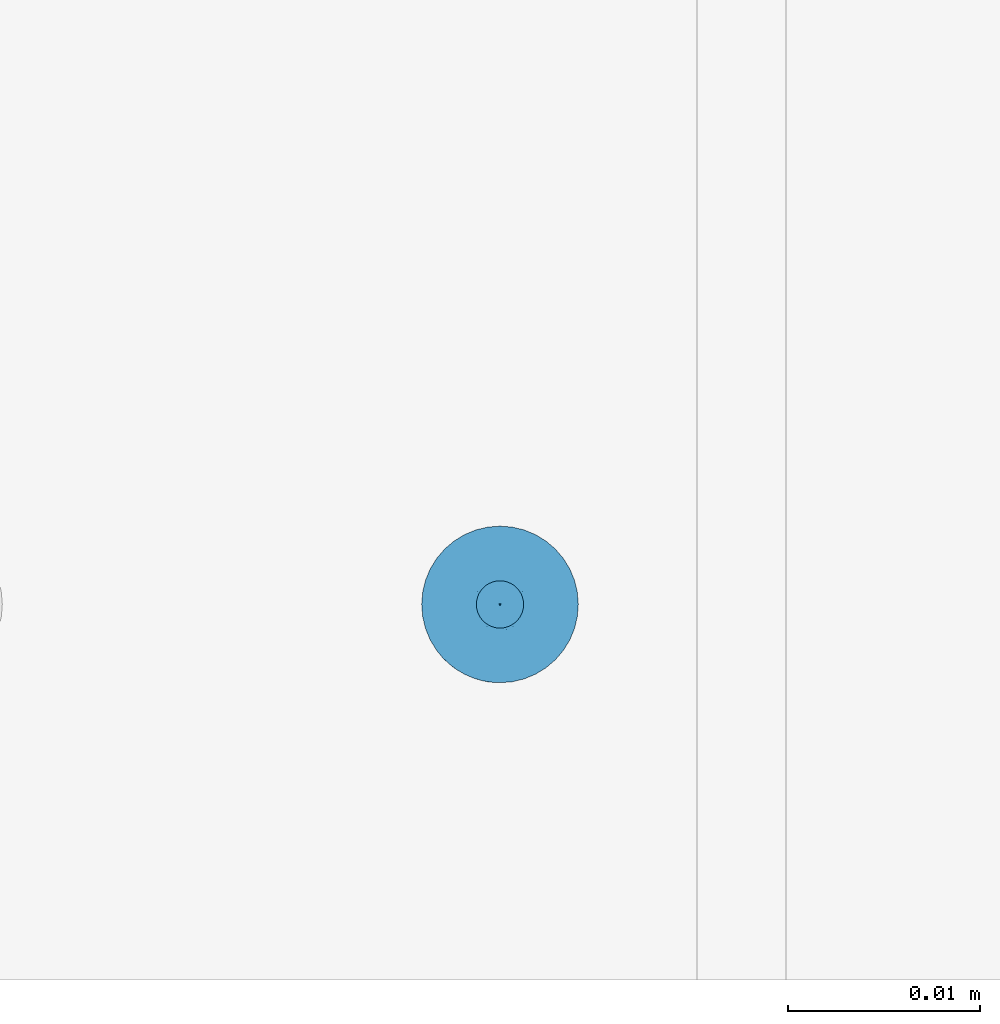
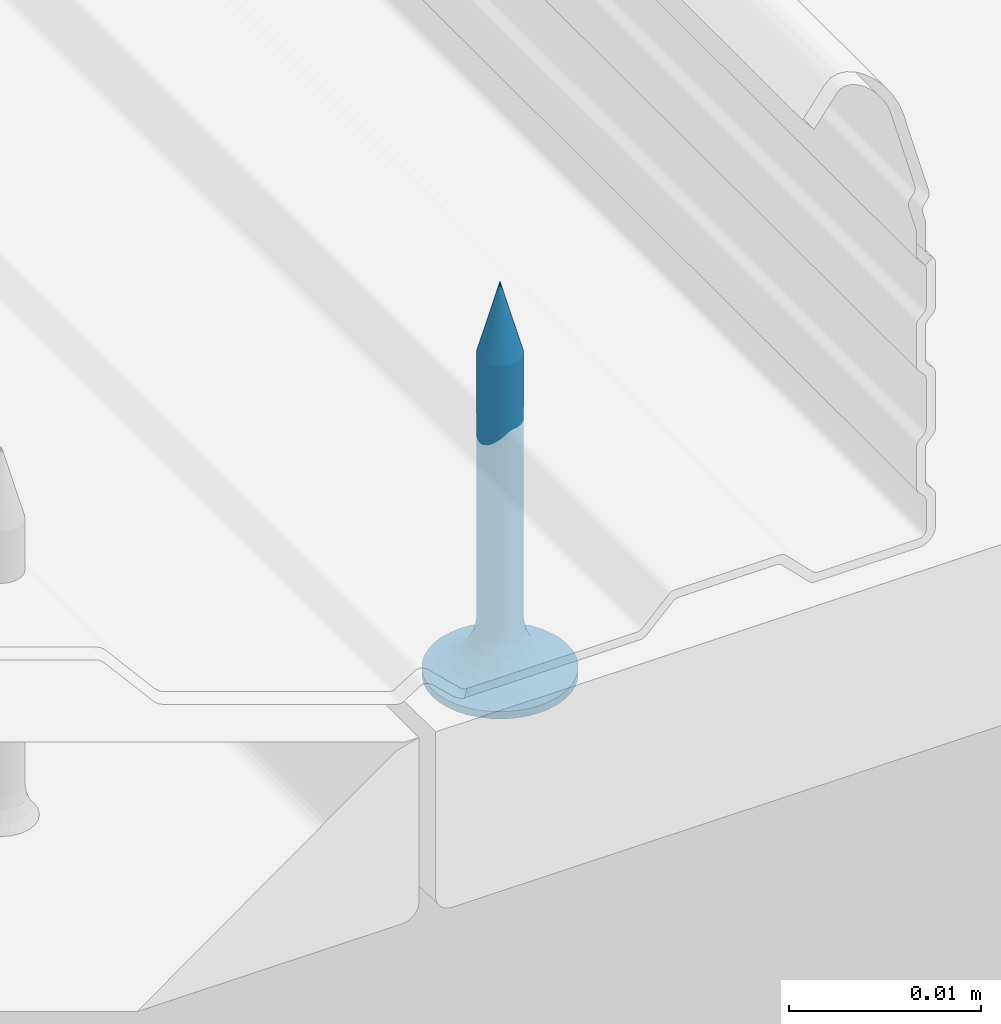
# One storey, part 16 of 62: 1 slab.
"""IFC2X3 building model written with IfcOpenShell, lengths in millimetres."""

from ifc_helpers import new_model, entity, si_unit, converted_unit, direction, frame, origin, origin_with_axes, place, context, project, spatial, faceted_brep, element, save


model = new_model("IFC2X3")

# Units and contexts
model_context = context("Model", 3, precision=1e-05, world=origin(), true_north=direction((0.0, 1.0, 0.0)))
ifc_project = project(units=[si_unit("LENGTHUNIT", "METRE", prefix="MILLI"), si_unit("AREAUNIT", "SQUARE_METRE"), si_unit("VOLUMEUNIT", "CUBIC_METRE"), converted_unit("PLANEANGLEUNIT", "DEGREE", entity("IfcPlaneAngleMeasure", 0.01745), si_unit("PLANEANGLEUNIT", "RADIAN"), dimensions=[0, 0, 0, 0, 0, 0, 0]), si_unit("SOLIDANGLEUNIT", "STERADIAN"), si_unit("MASSUNIT", "GRAM"), si_unit("TIMEUNIT", "SECOND"), si_unit("THERMODYNAMICTEMPERATUREUNIT", "DEGREE_CELSIUS"), si_unit("LUMINOUSINTENSITYUNIT", "LUMEN")], contexts=[model_context])

# Site, building, storey
site_placement = place(None, origin_with_axes())
site = spatial("IfcSite", under=ifc_project, at=site_placement, Name="Default Site", CompositionType="ELEMENT")
building_placement = place(site_placement, origin_with_axes())
building = spatial("IfcBuilding", under=site, at=building_placement, Name="Default Building", CompositionType="ELEMENT")
storey_placement = place(building_placement, origin_with_axes())
storey = spatial("IfcBuildingStorey", under=building, at=storey_placement, Name="Default Building Storey", CompositionType="ELEMENT", Elevation=0.0)

# Slab
slab_placement = place(storey_placement, frame((2515.605801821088, 733.9019927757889, 4687.393042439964), z_axis=(0.0, 1.0, 2.220446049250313e-16), x_axis=(1.0, -1.802054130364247e-31, 8.115730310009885e-16)))
element("IfcSlab", 1, at=slab_placement, inside=storey, Name="Wkręt RIGIPS TN 25", context=model_context, shape_type="Brep", body=[
    faceted_brep([(-141.5377463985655, 3390.556721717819, 555.8000000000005), (-141.5377463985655, 3391.020944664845, 555.8000000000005), (-141.4875329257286, 3391.020944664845, 555.1619773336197), (-141.4875329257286, 3390.556721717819, 555.1619773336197), (-141.338128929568, 3391.020944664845, 554.5396649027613), (-141.338128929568, 3390.556721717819, 554.5396649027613), (-141.0932132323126, 3391.020944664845, 553.9483861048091), (-141.0932132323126, 3390.556721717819, 553.9483861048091), (-140.7588164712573, 3391.020944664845, 553.4027001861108), (-140.7588164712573, 3390.556721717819, 553.4027001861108), (-140.3431726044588, 3391.020944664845, 552.9160437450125), (-140.4541727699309, 3390.556721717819, 553.0314907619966), (-140.1080097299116, 3390.556721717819, 552.6986614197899), (-139.8565161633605, 3391.020944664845, 552.500399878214), (-139.7251262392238, 3390.556721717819, 552.4088262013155), (-139.3108302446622, 3391.020944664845, 552.1660031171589), (-139.3108302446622, 3390.556721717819, 552.1660031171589), (-138.8708651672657, 3390.556721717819, 551.9735584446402), (-138.7195514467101, 3391.020944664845, 551.9210874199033), (-138.4113302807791, 3390.556721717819, 551.8341600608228), (-137.9385961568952, 3390.556721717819, 551.7497404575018), (-138.0972390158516, 3391.020944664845, 551.7716834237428), (-137.459216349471, 3391.020944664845, 551.7214699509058), (-137.459216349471, 3390.556721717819, 551.7214699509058), (-136.8211936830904, 3391.020944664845, 551.7716834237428), (-136.8211936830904, 3390.556721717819, 551.7716834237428), (-136.198881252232, 3391.020944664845, 551.9210874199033), (-136.198881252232, 3390.556721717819, 551.9210874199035), (-135.6076024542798, 3391.020944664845, 552.1660031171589), (-135.6076024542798, 3390.556721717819, 552.1660031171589), (-135.0619165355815, 3391.020944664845, 552.500399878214), (-135.0619165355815, 3390.556721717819, 552.500399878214), (-134.5752600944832, 3391.020944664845, 552.9160437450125), (-134.5752600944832, 3390.556721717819, 552.9160437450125), (-134.1596162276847, 3391.020944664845, 553.4027001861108), (-134.1596162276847, 3390.556721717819, 553.4027001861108), (-133.8252194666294, 3391.020944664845, 553.9483861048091), (-133.8252194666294, 3390.556721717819, 553.9483861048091), (-133.580303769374, 3391.020944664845, 554.5396649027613), (-133.580303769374, 3390.556721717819, 554.5396649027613), (-133.4308997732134, 3391.020944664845, 556.438022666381), (-133.4308997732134, 3390.556721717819, 556.438022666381), (-133.3806863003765, 3390.556721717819, 555.8000000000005), (-133.3806863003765, 3391.020944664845, 555.8000000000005), (-133.4308997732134, 3390.556721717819, 555.1619773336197), (-133.4308997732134, 3391.020944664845, 555.1619773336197), (-133.580303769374, 3391.020944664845, 557.0603350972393), (-133.580303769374, 3390.556721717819, 557.0603350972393), (-133.8252194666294, 3391.020944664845, 557.6516138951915), (-133.8252194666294, 3390.556721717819, 557.6516138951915), (-134.1596162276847, 3391.020944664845, 558.1972998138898), (-134.1596162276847, 3390.556721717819, 558.1972998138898), (-134.5752600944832, 3391.020944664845, 558.6839562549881), (-134.5752600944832, 3390.556721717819, 558.6839562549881), (-135.0619165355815, 3391.020944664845, 559.0996001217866), (-135.0619165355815, 3390.556721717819, 559.0996001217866), (-135.6076024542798, 3391.020944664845, 559.4339968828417), (-135.6076024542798, 3390.556721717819, 559.4339968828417), (-136.198881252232, 3391.020944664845, 559.6789125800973), (-136.198881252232, 3390.556721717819, 559.6789125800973), (-136.8211936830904, 3391.020944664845, 559.8283165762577), (-136.8211936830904, 3390.556721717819, 559.8283165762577), (-137.459216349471, 3391.020944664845, 559.8785300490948), (-137.459216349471, 3390.556721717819, 559.8785300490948), (-138.0972390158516, 3391.020944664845, 559.8283165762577), (-138.0972390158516, 3390.556721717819, 559.8283165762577), (-138.7195514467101, 3391.020944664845, 559.6789125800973), (-138.7195514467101, 3390.556721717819, 559.6789125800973), (-139.3108302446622, 3391.020944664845, 559.4339968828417), (-139.3108302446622, 3390.556721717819, 559.4339968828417), (-139.8565161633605, 3391.020944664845, 559.0996001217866), (-139.8565161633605, 3390.556721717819, 559.0996001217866), (-140.3431726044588, 3391.020944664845, 558.6839562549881), (-140.3431726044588, 3390.556721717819, 558.6839562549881), (-140.7588164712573, 3391.020944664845, 558.1972998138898), (-140.7588164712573, 3390.556721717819, 558.1972998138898), (-141.0932132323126, 3391.020944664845, 557.6516138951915), (-141.0932132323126, 3390.556721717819, 557.6516138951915), (-141.338128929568, 3391.020944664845, 557.0603350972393), (-141.338128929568, 3390.556721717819, 557.0603350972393), (-141.4875329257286, 3391.020944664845, 556.438022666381), (-141.4875329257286, 3390.556721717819, 556.438022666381), (-137.8060615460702, 3388.229732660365, 554.5055560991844), (-137.459216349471, 3387.475459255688, 554.5693795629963), (-137.6517277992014, 3387.475459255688, 554.5845305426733), (-137.459216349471, 3388.229732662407, 554.4598930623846), (-137.8394989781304, 3387.475459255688, 554.6296104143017), (-138.1292698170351, 3388.229732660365, 554.6394333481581), (-138.0179063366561, 3387.475459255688, 554.7035091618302), (-138.1825568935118, 3387.475459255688, 554.8044071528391), (-138.4068150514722, 3388.229732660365, 554.8524012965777), (-138.3293964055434, 3387.475459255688, 554.9298199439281), (-138.6197830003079, 3388.229732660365, 555.1299465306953), (-138.4548091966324, 3387.475459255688, 555.0766594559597), (-138.5557071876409, 3387.475459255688, 555.2413100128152), (-138.7536602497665, 3388.229732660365, 555.4531548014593), (-138.6296059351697, 3387.475459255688, 555.4197173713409), (-138.6746858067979, 3387.475459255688, 555.6074885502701), (-138.7993232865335, 3388.229732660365, 555.7999999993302), (-138.6898367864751, 3387.475459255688, 555.8000000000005), (-138.7536602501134, 3388.229732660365, 556.1468451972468), (-138.6746858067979, 3387.475459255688, 555.9925114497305), (-138.6296059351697, 3387.475459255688, 556.1802826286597), (-138.6197830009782, 3388.229732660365, 556.4700534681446), (-138.5557071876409, 3387.475459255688, 556.3586899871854), (-138.4548091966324, 3387.475459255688, 556.5233405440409), (-138.4068150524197, 3388.229732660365, 556.7475987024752), (-138.3293964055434, 3387.475459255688, 556.6701800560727), (-138.1292698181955, 3388.229732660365, 556.9605666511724), (-138.1825568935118, 3387.475459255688, 556.7955928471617), (-138.0179063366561, 3387.475459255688, 556.8964908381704), (-137.8060615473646, 3388.229732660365, 557.0944439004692), (-137.8394989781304, 3387.475459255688, 556.9703895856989), (-137.6517277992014, 3387.475459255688, 557.0154694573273), (-137.459216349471, 3388.229732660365, 557.1401069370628), (-137.459216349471, 3387.475459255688, 557.0306204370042), (-137.1123711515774, 3388.229732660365, 557.0944439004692), (-137.2667048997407, 3387.475459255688, 557.0154694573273), (-137.0789337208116, 3387.475459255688, 556.9703895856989), (-136.7891628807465, 3388.229732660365, 556.9605666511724), (-136.9005263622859, 3387.475459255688, 556.8964908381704), (-136.7358758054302, 3387.475459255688, 556.7955928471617), (-136.5116176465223, 3388.229732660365, 556.7475987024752), (-136.5890362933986, 3387.475459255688, 556.6701800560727), (-136.2986496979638, 3388.229732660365, 556.4700534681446), (-136.4636235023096, 3387.475459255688, 556.5233405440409), (-136.3627255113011, 3387.475459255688, 556.3586899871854), (-136.1647724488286, 3388.229732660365, 556.1468451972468), (-136.2888267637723, 3387.475459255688, 556.1802826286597), (-136.2437468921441, 3387.475459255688, 555.9925114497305), (-136.1191094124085, 3388.229732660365, 555.7999999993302), (-136.2285959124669, 3387.475459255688, 555.8000000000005), (-136.1647724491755, 3388.229732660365, 555.4531548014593), (-136.2437468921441, 3387.475459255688, 555.6074885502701), (-136.2888267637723, 3387.475459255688, 555.4197173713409), (-136.2986496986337, 3388.229732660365, 555.1299465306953), (-136.3627255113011, 3387.475459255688, 555.2413100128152), (-136.4636235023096, 3387.475459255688, 555.0766594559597), (-136.5116176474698, 3388.229732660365, 554.8524012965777), (-136.5890362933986, 3387.475459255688, 554.9298199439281), (-136.7891628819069, 3388.229732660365, 554.6394333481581), (-136.7358758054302, 3387.475459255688, 554.8044071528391), (-136.9005263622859, 3387.475459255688, 554.7035091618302), (-137.1123711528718, 3388.229732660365, 554.5055560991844), (-137.0789337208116, 3387.475459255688, 554.6296104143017), (-137.2667048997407, 3387.475459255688, 554.5845305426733), (-137.459216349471, 3388.936142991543, 554.1737111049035), (-137.8801308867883, 3388.936142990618, 554.2291255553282), (-138.2723607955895, 3388.936142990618, 554.39159250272), (-138.6091762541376, 3388.936142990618, 554.6500400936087), (-138.8676238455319, 3388.936142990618, 554.9868555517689), (-139.030090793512, 3388.936142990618, 555.3790854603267), (-139.0855052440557, 3388.936142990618, 555.7999999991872), (-139.0300907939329, 3388.936142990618, 556.220914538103), (-138.8676238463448, 3388.936142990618, 556.6131444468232), (-138.6091762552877, 3388.936142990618, 556.949959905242), (-138.272360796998, 3388.936142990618, 557.2084074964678), (-137.8801308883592, 3388.936142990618, 557.3708744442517), (-137.459216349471, 3388.936142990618, 557.4262888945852), (-137.0383018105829, 3388.936142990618, 557.3708744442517), (-136.646071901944, 3388.936142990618, 557.2084074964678), (-136.3092564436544, 3388.936142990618, 556.949959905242), (-136.0508088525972, 3388.936142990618, 556.6131444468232), (-135.8883419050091, 3388.936142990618, 556.220914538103), (-135.8329274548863, 3388.936142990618, 555.7999999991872), (-135.88834190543, 3388.936142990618, 555.3790854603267), (-136.0508088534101, 3388.936142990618, 554.9868555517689), (-136.3092564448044, 3388.936142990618, 554.6500400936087), (-136.6460719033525, 3388.936142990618, 554.39159250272), (-137.0383018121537, 3388.936142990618, 554.2291255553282), (-137.459216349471, 3389.553938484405, 553.727343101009), (-137.995659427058, 3389.553938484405, 553.7979671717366), (-138.4955447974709, 3389.553938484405, 554.0050264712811), (-138.9248060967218, 3389.553938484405, 554.3344102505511), (-139.2541898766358, 3389.553938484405, 554.763671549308), (-139.46124917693, 3389.553938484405, 555.2635569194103), (-139.5318732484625, 3389.553938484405, 555.799999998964), (-139.4612491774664, 3389.553938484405, 556.3364430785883), (-139.2541898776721, 3389.553938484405, 556.8363284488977), (-138.9248060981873, 3389.553938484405, 557.2655897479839), (-138.495544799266, 3389.553938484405, 557.5949735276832), (-137.9956594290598, 3389.553938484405, 557.8020328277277), (-137.459216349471, 3389.553938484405, 557.8726568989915), (-136.9227732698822, 3389.553938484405, 557.8020328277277), (-136.422887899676, 3389.553938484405, 557.5949735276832), (-135.9936266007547, 3389.553938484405, 557.2655897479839), (-135.6642428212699, 3389.553938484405, 556.8363284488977), (-135.4571835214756, 3389.553938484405, 556.3364430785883), (-135.3865594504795, 3389.553938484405, 555.799999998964), (-135.457183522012, 3389.553938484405, 555.2635569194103), (-135.6642428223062, 3389.553938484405, 554.763671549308), (-135.9936266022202, 3389.553938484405, 554.3344102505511), (-136.4228879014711, 3389.553938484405, 554.0050264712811), (-136.922773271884, 3389.553938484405, 553.7979671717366), (-137.459216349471, 3390.04747944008, 553.1465393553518), (-138.1459824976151, 3390.047479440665, 553.2369538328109), (-138.7859466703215, 3390.047479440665, 553.5020356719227), (-139.3354963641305, 3390.047479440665, 553.9237199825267), (-139.7571806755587, 3390.047479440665, 554.4732696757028), (-140.0222625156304, 3390.047479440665, 555.1132338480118), (-140.1126769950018, 3390.047479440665, 555.7999999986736), (-140.0222625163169, 3390.047479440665, 556.4867661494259), (-139.7571806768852, 3390.047479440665, 557.1267303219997), (-139.3354963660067, 3390.047479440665, 557.6762800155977), (-138.7859466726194, 3390.047479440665, 558.0979643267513), (-138.1459825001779, 3390.047479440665, 558.3630461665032), (-137.459216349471, 3390.047479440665, 558.4534606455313), (-136.7724501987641, 3390.047479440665, 558.3630461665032), (-136.1324860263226, 3390.047479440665, 558.0979643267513), (-135.5829363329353, 3390.047479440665, 557.6762800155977), (-135.1612520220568, 3390.047479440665, 557.1267303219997), (-134.8961701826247, 3390.047479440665, 556.4867661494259), (-134.8057557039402, 3390.047479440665, 555.7999999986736), (-134.8961701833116, 3390.047479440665, 555.1132338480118), (-135.1612520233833, 3390.047479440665, 554.4732696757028), (-135.5829363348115, 3390.047479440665, 553.9237199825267), (-136.1324860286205, 3390.047479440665, 553.5020356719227), (-136.7724502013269, 3390.047479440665, 553.2369538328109), (-137.459216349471, 3390.388294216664, 552.4648055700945), (-138.3224281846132, 3390.388294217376, 552.5784495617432), (-139.1268135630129, 3390.388294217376, 552.9116368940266), (-139.8175549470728, 3390.388294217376, 553.4416613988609), (-140.3475794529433, 3390.388294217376, 554.1324027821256), (-140.6807667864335, 3390.388294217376, 554.936788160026), (-140.7944107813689, 3390.388294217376, 555.7999999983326), (-140.6807667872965, 3390.388294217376, 556.663211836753), (-140.3475794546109, 3390.388294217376, 557.4675972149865), (-139.8175549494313, 3390.388294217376, 558.1583385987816), (-139.1268135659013, 3390.388294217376, 558.6883631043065), (-138.3224281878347, 3390.388294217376, 559.0215504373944), (-137.459216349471, 3390.388294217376, 559.1351944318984), (-136.5960045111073, 3390.388294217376, 559.0215504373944), (-135.7916191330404, 3390.388294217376, 558.6883631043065), (-135.1008777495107, 3390.388294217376, 558.1583385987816), (-134.5708532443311, 3390.388294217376, 557.4675972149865), (-134.2376659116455, 3390.388294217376, 556.663211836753), (-134.1240219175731, 3390.388294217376, 555.7999999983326), (-134.2376659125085, 3390.388294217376, 554.936788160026), (-134.5708532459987, 3390.388294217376, 554.1324027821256), (-135.1008777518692, 3390.388294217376, 553.4416613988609), (-135.7916191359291, 3390.388294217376, 552.9116368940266), (-136.5960045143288, 3390.388294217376, 552.5784495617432), (-138.6898367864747, 3370.55807436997, 555.8000000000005), (-138.6746858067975, 3370.55807436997, 555.6074885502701), (-138.6296059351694, 3370.55807436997, 555.4197173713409), (-138.5557071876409, 3370.55807436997, 555.2413100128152), (-138.4548091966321, 3370.55807436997, 555.0766594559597), (-138.329396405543, 3370.55807436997, 554.9298199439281), (-138.1825568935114, 3370.55807436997, 554.8044071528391), (-138.0179063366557, 3370.55807436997, 554.7035091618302), (-137.83949897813, 3370.55807436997, 554.6296104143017), (-137.651727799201, 3370.55807436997, 554.5845305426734), (-137.4592163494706, 3370.55807436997, 554.5693795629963), (-137.2667048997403, 3370.55807436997, 554.5845305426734), (-137.0789337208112, 3370.55807436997, 554.6296104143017), (-136.9005263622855, 3370.55807436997, 554.7035091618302), (-136.7358758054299, 3370.55807436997, 554.8044071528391), (-136.5890362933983, 3370.55807436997, 554.9298199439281), (-136.4636235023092, 3370.55807436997, 555.0766594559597), (-136.3627255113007, 3370.55807436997, 555.2413100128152), (-136.2888267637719, 3370.55807436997, 555.4197173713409), (-136.2437468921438, 3370.55807436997, 555.9925114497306), (-136.2285959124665, 3370.55807436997, 555.8000000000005), (-136.2437468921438, 3370.55807436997, 555.6074885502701), (-136.2888267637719, 3370.55807436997, 556.1802826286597), (-136.3627255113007, 3370.55807436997, 556.3586899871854), (-136.4636235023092, 3370.55807436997, 556.5233405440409), (-136.5890362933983, 3370.55807436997, 556.6701800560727), (-136.7358758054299, 3370.55807436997, 556.7955928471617), (-136.9005263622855, 3370.55807436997, 556.8964908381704), (-137.0789337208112, 3370.55807436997, 556.9703895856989), (-137.2667048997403, 3370.55807436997, 557.0154694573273), (-137.4592163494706, 3370.55807436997, 557.0306204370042), (-137.651727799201, 3370.55807436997, 557.0154694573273), (-137.83949897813, 3370.55807436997, 556.9703895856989), (-138.0179063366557, 3370.55807436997, 556.8964908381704), (-138.1825568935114, 3370.55807436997, 556.7955928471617), (-138.329396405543, 3370.55807436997, 556.6701800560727), (-138.4548091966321, 3370.55807436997, 556.5233405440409), (-138.5557071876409, 3370.55807436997, 556.3586899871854), (-138.6296059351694, 3370.55807436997, 556.1802826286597), (-138.6746858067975, 3370.55807436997, 555.9925114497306), (-137.4592163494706, 3366.021033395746, 555.8000000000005), (-139.9592163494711, 3391.020944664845, 556.3000000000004), (-137.9592163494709, 3391.020944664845, 556.3000000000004), (-139.9592163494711, 3391.020944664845, 555.3000000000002), (-137.9592163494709, 3391.020944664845, 555.3000000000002), (-137.9592163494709, 3391.020944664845, 553.3000000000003), (-136.9592163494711, 3391.020944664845, 553.3000000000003), (-136.9592163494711, 3391.020944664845, 555.3000000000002), (-134.9592163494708, 3391.020944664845, 555.3000000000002), (-134.9592163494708, 3391.020944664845, 556.3000000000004), (-136.9592163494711, 3391.020944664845, 556.3000000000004), (-136.9592163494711, 3391.020944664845, 558.3000000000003), (-137.9592163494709, 3391.020944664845, 558.3000000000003), (-136.9592163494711, 3390.128974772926, 556.3000000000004), (-134.9592163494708, 3390.128974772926, 556.3000000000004), (-134.9592163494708, 3390.128974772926, 555.3000000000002), (-136.9592163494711, 3390.128974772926, 555.3000000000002), (-136.9592163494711, 3390.128974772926, 553.3000000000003), (-137.9592163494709, 3390.128974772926, 553.3000000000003), (-137.9592163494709, 3390.128974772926, 555.3000000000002), (-139.9592163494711, 3390.128974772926, 555.3000000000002), (-139.9592163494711, 3390.128974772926, 556.3000000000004), (-137.9592163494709, 3390.128974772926, 556.3000000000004), (-137.9592163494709, 3390.128974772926, 558.3000000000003), (-136.9592163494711, 3390.128974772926, 558.3000000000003)], [[[0, 1, 2, 3]], [[4, 5, 3, 2]], [[6, 7, 5, 4]], [[7, 6, 8, 9]], [[8, 10, 9]], [[10, 11, 9]], [[12, 11, 13]], [[11, 10, 13]], [[13, 14, 12]], [[13, 15, 14]], [[15, 16, 14]], [[17, 16, 18]], [[16, 15, 18]], [[18, 19, 17]], [[20, 19, 21]], [[19, 18, 21]], [[21, 22, 20]], [[22, 23, 20]], [[23, 22, 24, 25]], [[26, 27, 25, 24]], [[28, 29, 27, 26]], [[29, 28, 30, 31]], [[32, 33, 31, 30]], [[33, 32, 34, 35]], [[36, 37, 35, 34]], [[38, 39, 37, 36]], [[40, 41, 42, 43]], [[43, 42, 44, 45]], [[39, 38, 45, 44]], [[46, 47, 41, 40]], [[48, 49, 47, 46]], [[49, 48, 50, 51]], [[52, 53, 51, 50]], [[53, 52, 54, 55]], [[56, 57, 55, 54]], [[58, 59, 57, 56]], [[59, 58, 60, 61]], [[62, 63, 61, 60]], [[63, 62, 64, 65]], [[66, 67, 65, 64]], [[68, 69, 67, 66]], [[69, 68, 70, 71]], [[72, 73, 71, 70]], [[73, 72, 74, 75]], [[76, 77, 75, 74]], [[78, 79, 77, 76]], [[79, 78, 80, 81]], [[1, 0, 81, 80]], [[82, 83, 84]], [[82, 85, 83]], [[84, 86, 82]], [[82, 86, 87]], [[88, 87, 86]], [[87, 88, 89]], [[89, 90, 87]], [[89, 91, 90]], [[92, 91, 93]], [[92, 90, 91]], [[93, 94, 92]], [[92, 94, 95]], [[96, 95, 94]], [[95, 96, 97]], [[97, 98, 95]], [[97, 99, 98]], [[100, 99, 101]], [[100, 98, 99]], [[101, 102, 100]], [[100, 102, 103]], [[104, 103, 102]], [[103, 104, 105]], [[105, 106, 103]], [[105, 107, 106]], [[108, 107, 109]], [[108, 106, 107]], [[109, 110, 108]], [[108, 110, 111]], [[112, 111, 110]], [[111, 112, 113]], [[113, 114, 111]], [[113, 115, 114]], [[116, 115, 117]], [[116, 114, 115]], [[117, 118, 116]], [[116, 118, 119]], [[120, 119, 118]], [[119, 120, 121]], [[121, 122, 119]], [[121, 123, 122]], [[124, 123, 125]], [[124, 122, 123]], [[125, 126, 124]], [[124, 126, 127]], [[128, 127, 126]], [[127, 128, 129]], [[129, 130, 127]], [[129, 131, 130]], [[132, 131, 133]], [[132, 130, 131]], [[133, 134, 132]], [[132, 134, 135]], [[136, 135, 134]], [[135, 136, 137]], [[137, 138, 135]], [[137, 139, 138]], [[140, 139, 141]], [[140, 138, 139]], [[141, 142, 140]], [[140, 142, 143]], [[144, 143, 142]], [[143, 144, 145]], [[145, 85, 143]], [[145, 83, 85]], [[146, 85, 147]], [[82, 147, 85]], [[87, 148, 147, 82]], [[90, 149, 148, 87]], [[92, 150, 149, 90]], [[95, 151, 150, 92]], [[98, 152, 151, 95]], [[100, 153, 152, 98]], [[103, 154, 153, 100]], [[106, 155, 154, 103]], [[108, 156, 155, 106]], [[111, 157, 156, 108]], [[114, 158, 157, 111]], [[116, 159, 158, 114]], [[119, 160, 159, 116]], [[122, 161, 160, 119]], [[124, 162, 161, 122]], [[127, 163, 162, 124]], [[130, 164, 163, 127]], [[132, 165, 164, 130]], [[135, 166, 165, 132]], [[138, 167, 166, 135]], [[140, 168, 167, 138]], [[143, 169, 168, 140]], [[143, 85, 169]], [[146, 169, 85]], [[170, 146, 171]], [[147, 171, 146]], [[148, 172, 171, 147]], [[149, 173, 172, 148]], [[150, 174, 173, 149]], [[151, 175, 174, 150]], [[152, 176, 175, 151]], [[153, 177, 176, 152]], [[154, 178, 177, 153]], [[155, 179, 178, 154]], [[156, 180, 179, 155]], [[157, 181, 180, 156]], [[158, 182, 181, 157]], [[159, 183, 182, 158]], [[160, 184, 183, 159]], [[161, 185, 184, 160]], [[162, 186, 185, 161]], [[163, 187, 186, 162]], [[164, 188, 187, 163]], [[165, 189, 188, 164]], [[166, 190, 189, 165]], [[167, 191, 190, 166]], [[168, 192, 191, 167]], [[169, 193, 192, 168]], [[169, 146, 193]], [[170, 193, 146]], [[194, 170, 195]], [[171, 195, 170]], [[172, 196, 195, 171]], [[173, 197, 196, 172]], [[174, 198, 197, 173]], [[175, 199, 198, 174]], [[176, 200, 199, 175]], [[177, 201, 200, 176]], [[178, 202, 201, 177]], [[179, 203, 202, 178]], [[180, 204, 203, 179]], [[181, 205, 204, 180]], [[182, 206, 205, 181]], [[183, 207, 206, 182]], [[184, 208, 207, 183]], [[185, 209, 208, 184]], [[186, 210, 209, 185]], [[187, 211, 210, 186]], [[188, 212, 211, 187]], [[189, 213, 212, 188]], [[190, 214, 213, 189]], [[191, 215, 214, 190]], [[192, 216, 215, 191]], [[193, 217, 216, 192]], [[193, 170, 217]], [[194, 217, 170]], [[218, 19, 20]], [[218, 219, 19]], [[20, 23, 218]], [[218, 194, 219]], [[195, 219, 194]], [[219, 16, 17]], [[219, 220, 16]], [[17, 19, 219]], [[196, 220, 219, 195]], [[221, 11, 12]], [[220, 12, 14]], [[220, 221, 12]], [[14, 16, 220]], [[197, 221, 220, 196]], [[222, 7, 9]], [[9, 221, 222]], [[9, 11, 221]], [[198, 222, 221, 197]], [[5, 7, 223]], [[222, 223, 7]], [[199, 223, 222, 198]], [[223, 0, 3]], [[223, 224, 0]], [[3, 5, 223]], [[200, 224, 223, 199]], [[225, 79, 81]], [[81, 224, 225]], [[81, 0, 224]], [[201, 225, 224, 200]], [[225, 226, 77, 79]], [[202, 226, 225, 201]], [[226, 73, 75]], [[226, 227, 73]], [[75, 77, 226]], [[203, 227, 226, 202]], [[228, 69, 71]], [[71, 227, 228]], [[71, 73, 227]], [[204, 228, 227, 203]], [[228, 229, 67, 69]], [[205, 229, 228, 204]], [[229, 63, 65]], [[229, 230, 63]], [[65, 67, 229]], [[206, 230, 229, 205]], [[231, 59, 61]], [[61, 230, 231]], [[61, 63, 230]], [[207, 231, 230, 206]], [[231, 232, 57, 59]], [[208, 232, 231, 207]], [[232, 53, 55]], [[232, 233, 53]], [[55, 57, 232]], [[209, 233, 232, 208]], [[234, 49, 51]], [[51, 233, 234]], [[51, 53, 233]], [[210, 234, 233, 209]], [[234, 235, 47, 49]], [[211, 235, 234, 210]], [[235, 42, 41]], [[235, 236, 42]], [[41, 47, 235]], [[212, 236, 235, 211]], [[237, 39, 44]], [[44, 236, 237]], [[44, 42, 236]], [[213, 237, 236, 212]], [[37, 39, 238]], [[237, 238, 39]], [[214, 238, 237, 213]], [[238, 33, 35]], [[238, 239, 33]], [[35, 37, 238]], [[215, 239, 238, 214]], [[240, 29, 31]], [[31, 239, 240]], [[31, 33, 239]], [[216, 240, 239, 215]], [[27, 29, 241]], [[240, 241, 29]], [[217, 241, 240, 216]], [[217, 194, 241]], [[218, 241, 194]], [[241, 23, 25]], [[241, 218, 23]], [[25, 27, 241]], [[242, 99, 97, 243]], [[96, 244, 243, 97]], [[94, 245, 244, 96]], [[245, 94, 93, 246]], [[91, 247, 246, 93]], [[247, 91, 89, 248]], [[88, 249, 248, 89]], [[86, 250, 249, 88]], [[250, 86, 84, 251]], [[83, 252, 251, 84]], [[252, 83, 145, 253]], [[144, 254, 253, 145]], [[142, 255, 254, 144]], [[255, 142, 141, 256]], [[139, 257, 256, 141]], [[257, 139, 137, 258]], [[136, 259, 258, 137]], [[134, 260, 259, 136]], [[129, 261, 262, 131]], [[131, 262, 263, 133]], [[260, 134, 133, 263]], [[128, 264, 261, 129]], [[126, 265, 264, 128]], [[265, 126, 125, 266]], [[123, 267, 266, 125]], [[267, 123, 121, 268]], [[120, 269, 268, 121]], [[118, 270, 269, 120]], [[270, 118, 117, 271]], [[115, 272, 271, 117]], [[272, 115, 113, 273]], [[112, 274, 273, 113]], [[110, 275, 274, 112]], [[275, 110, 109, 276]], [[107, 277, 276, 109]], [[277, 107, 105, 278]], [[104, 279, 278, 105]], [[102, 280, 279, 104]], [[280, 102, 101, 281]], [[99, 242, 281, 101]], [[243, 244, 282]], [[282, 242, 243]], [[244, 245, 282]], [[246, 247, 282]], [[282, 245, 246]], [[248, 249, 282]], [[282, 247, 248]], [[249, 250, 282]], [[251, 252, 282]], [[282, 250, 251]], [[253, 254, 282]], [[282, 252, 253]], [[254, 255, 282]], [[256, 257, 282]], [[282, 255, 256]], [[258, 259, 282]], [[282, 257, 258]], [[259, 260, 282]], [[263, 262, 282]], [[282, 260, 263]], [[261, 264, 282]], [[282, 262, 261]], [[264, 265, 282]], [[266, 267, 282]], [[282, 265, 266]], [[268, 269, 282]], [[282, 267, 268]], [[269, 270, 282]], [[271, 272, 282]], [[282, 270, 271]], [[273, 274, 282]], [[282, 272, 273]], [[274, 275, 282]], [[276, 277, 282]], [[282, 275, 276]], [[278, 279, 282]], [[282, 277, 278]], [[279, 280, 282]], [[281, 242, 282]], [[282, 280, 281]], [[283, 76, 74, 284]], [[283, 285, 286, 287, 288, 289, 290, 291, 292, 293, 294, 284, 74, 72, 70, 68, 66, 64, 62, 60, 58, 56, 54, 52, 50, 48, 46, 40, 43, 45, 38, 36, 34, 32, 30, 28, 26, 24, 22, 21, 18, 15, 13, 10, 8, 6, 4, 2, 1, 80, 78, 76]], [[295, 296, 297, 298, 299, 300, 301, 302, 303, 304, 305, 306]], [[297, 290, 289, 298]], [[296, 291, 290, 297]], [[295, 292, 291, 296]], [[306, 293, 292, 295]], [[305, 294, 293, 306]], [[304, 284, 294, 305]], [[303, 283, 284, 304]], [[302, 285, 283, 303]], [[301, 286, 285, 302]], [[300, 287, 286, 301]], [[299, 288, 287, 300]], [[298, 289, 288, 299]]]),
])

save(model, "model.ifc")
